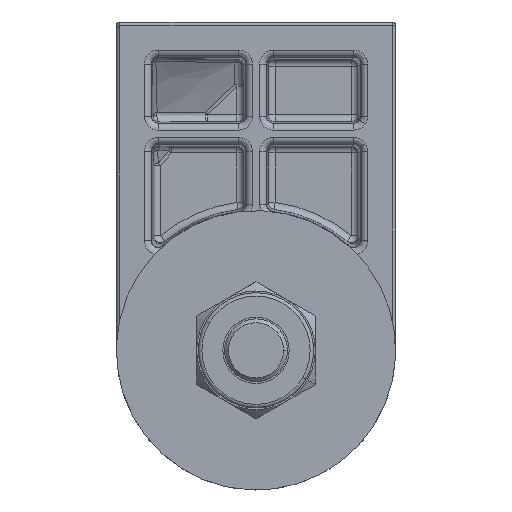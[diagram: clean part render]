
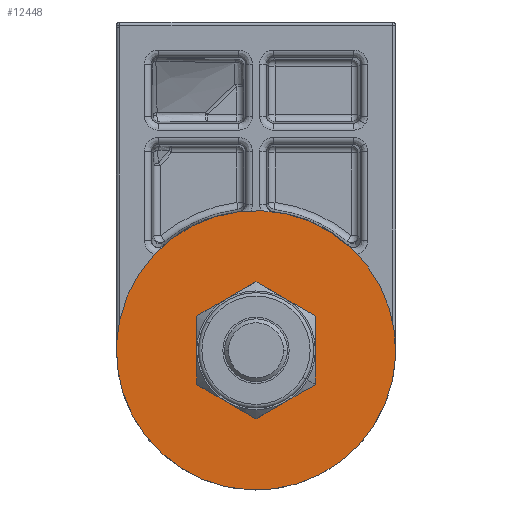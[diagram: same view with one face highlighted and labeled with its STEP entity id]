
A CAD part, front view. The second image highlights one B-rep face of the part: STEP entity #12448.
In plain terms, the highlighted planar face has unit normal (0, -1, 0) as drawn and (0, 0, 1) by its records, which use the part's own axes.
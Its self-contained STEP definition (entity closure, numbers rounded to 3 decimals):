
#303 = DIRECTION ( 'NONE',  ( 0., 0., 1. ) ) ;
#652 = EDGE_LOOP ( 'NONE', ( #4554, #6956 ) ) ;
#723 = CARTESIAN_POINT ( 'NONE',  ( 0., 0., 0. ) ) ;
#2286 = DIRECTION ( 'NONE',  ( 1., 0., 0. ) ) ;
#2399 = CIRCLE ( 'NONE', #15334, 5.05 ) ;
#2656 = DIRECTION ( 'NONE',  ( 0., 0., 1. ) ) ;
#3413 = VERTEX_POINT ( 'NONE', #5861 ) ;
#3871 = PLANE ( 'NONE',  #8817 ) ;
#4554 = ORIENTED_EDGE ( 'NONE', *, *, #8657, .T. ) ;
#4729 = EDGE_CURVE ( 'NONE', #13666, #8600, #11862, .T. ) ;
#5280 = ORIENTED_EDGE ( 'NONE', *, *, #12314, .F. ) ;
#5292 = CARTESIAN_POINT ( 'NONE',  ( 0., 0., 0. ) ) ;
#5440 = DIRECTION ( 'NONE',  ( 1., 0., 0. ) ) ;
#5861 = CARTESIAN_POINT ( 'NONE',  ( -20., 0., 0. ) ) ;
#6709 = ORIENTED_EDGE ( 'NONE', *, *, #4729, .F. ) ;
#6956 = ORIENTED_EDGE ( 'NONE', *, *, #11958, .T. ) ;
#7613 = AXIS2_PLACEMENT_3D ( 'NONE', #5292, #9293, #12444 ) ;
#8006 = CARTESIAN_POINT ( 'NONE',  ( 20., 0., 0. ) ) ;
#8153 = FACE_BOUND ( 'NONE', #12084, .T. ) ;
#8600 = VERTEX_POINT ( 'NONE', #19388 ) ;
#8657 = EDGE_CURVE ( 'NONE', #12763, #3413, #12034, .T. ) ;
#8817 = AXIS2_PLACEMENT_3D ( 'NONE', #10006, #14573, #5440 ) ;
#9293 = DIRECTION ( 'NONE',  ( 0., 0., 1. ) ) ;
#9538 = CARTESIAN_POINT ( 'NONE',  ( 0., 0., 0. ) ) ;
#9607 = AXIS2_PLACEMENT_3D ( 'NONE', #723, #11458, #2286 ) ;
#10006 = CARTESIAN_POINT ( 'NONE',  ( 0., 0., 0. ) ) ;
#11065 = DIRECTION ( 'NONE',  ( 1., 0., 0. ) ) ;
#11458 = DIRECTION ( 'NONE',  ( 0., 0., 1. ) ) ;
#11836 = CARTESIAN_POINT ( 'NONE',  ( 0., 0., 0. ) ) ;
#11845 = CARTESIAN_POINT ( 'NONE',  ( -5.05, 0., 0. ) ) ;
#11862 = CIRCLE ( 'NONE', #7613, 5.05 ) ;
#11958 = EDGE_CURVE ( 'NONE', #3413, #12763, #14377, .T. ) ;
#12034 = CIRCLE ( 'NONE', #19063, 20. ) ;
#12084 = EDGE_LOOP ( 'NONE', ( #5280, #6709 ) ) ;
#12314 = EDGE_CURVE ( 'NONE', #8600, #13666, #2399, .T. ) ;
#12444 = DIRECTION ( 'NONE',  ( 1., 0., 0. ) ) ;
#12448 = ADVANCED_FACE ( 'NONE', ( #8153, #15310 ), #3871, .T. ) ;
#12763 = VERTEX_POINT ( 'NONE', #8006 ) ;
#13366 = DIRECTION ( 'NONE',  ( 1., 0., 0. ) ) ;
#13666 = VERTEX_POINT ( 'NONE', #11845 ) ;
#14377 = CIRCLE ( 'NONE', #9607, 20. ) ;
#14573 = DIRECTION ( 'NONE',  ( 0., 0., 1. ) ) ;
#15310 = FACE_OUTER_BOUND ( 'NONE', #652, .T. ) ;
#15334 = AXIS2_PLACEMENT_3D ( 'NONE', #9538, #303, #11065 ) ;
#19063 = AXIS2_PLACEMENT_3D ( 'NONE', #11836, #2656, #13366 ) ;
#19388 = CARTESIAN_POINT ( 'NONE',  ( 5.05, 0., 0. ) ) ;
